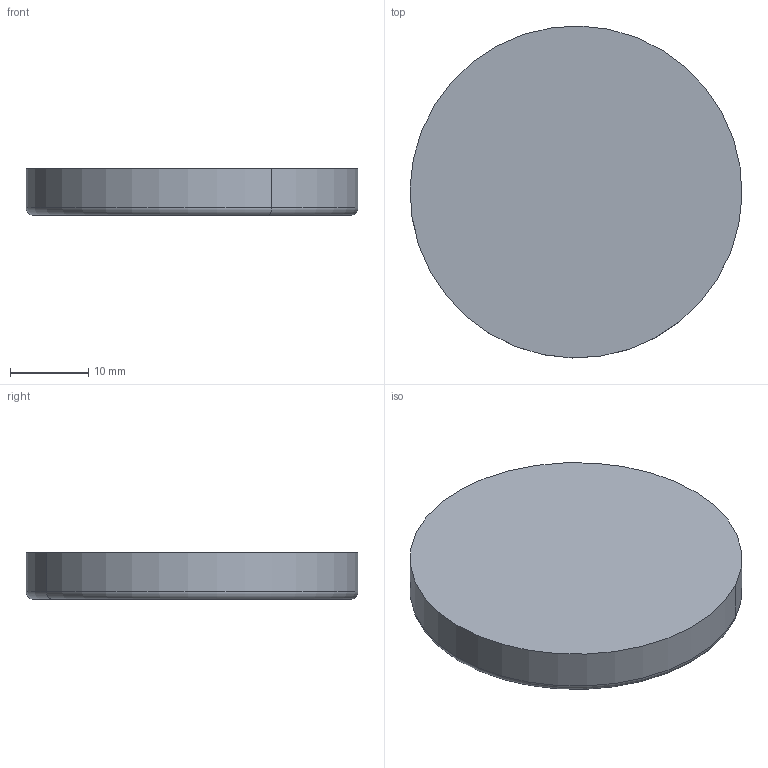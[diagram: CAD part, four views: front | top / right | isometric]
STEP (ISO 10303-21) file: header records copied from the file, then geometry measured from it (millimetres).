
FILE_DESCRIPTION(('CATIA V5 STEP Exchange'),'2;1');
FILE_NAME('X:\CODICI MOVEX\3D per clienti\Carlo De Lauri\02-10-2014\P99602_01.stp','2014-10-02T09:13:12+00:00',('none'),('none'),'Version 5-6 Release 2012','CATIA V5 STEP AP203','none');
FILE_SCHEMA(('CONFIG_CONTROL_DESIGN'));
Length unit declared in the file: millimetre
Products named in the file (1): S003501_01
Bounding box: 42.49 x 42.49 x 6 mm (x, y, z)
Volume: 8392.7 mm3; surface area: 3614.2 mm2
Topology: 1 solids, 1 shells, 446 faces, 1306 edges, 870 vertices
Faces by surface type: plane 440, cylinder 4, torus 2
Entity records: 14370 total; most frequent: ORIENTED_EDGE 2612, CARTESIAN_POINT 2594, DIRECTION 2140, EDGE_CURVE 1306, VECTOR 1294, LINE 1294, VERTEX_POINT 870, EDGE_LOOP 454
